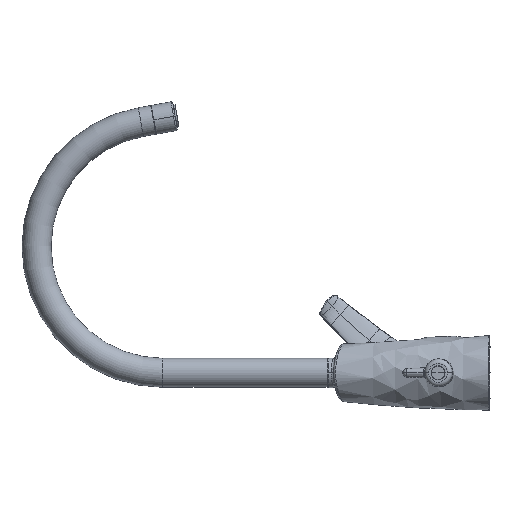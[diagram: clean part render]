
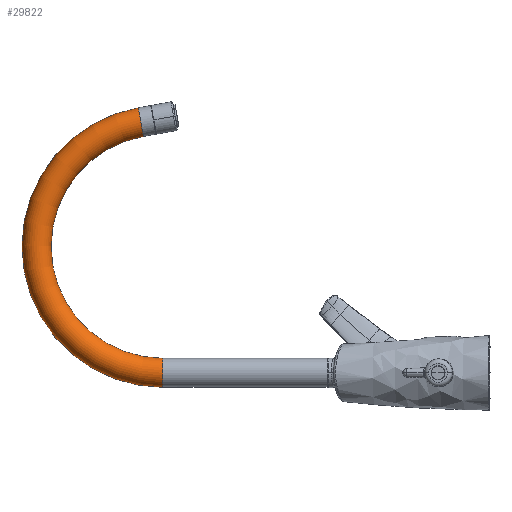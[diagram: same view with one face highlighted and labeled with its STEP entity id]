
A CAD part, left-side view. The second image highlights one B-rep face of the part: STEP entity #29822.
In plain terms, the highlighted toroidal (fillet/blend) face has major radius 100 mm and minor radius 11.5 mm.
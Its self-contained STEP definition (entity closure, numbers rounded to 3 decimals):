
#29699=CARTESIAN_POINT('',(0.,258.45,0.));
#29700=DIRECTION('',(0.,1.,0.));
#29701=DIRECTION('',(0.,0.,-1.));
#29702=AXIS2_PLACEMENT_3D('',#29699,#29700,#29701);
#29704=CARTESIAN_POINT('',(0.,258.45,100.));
#29705=DIRECTION('',(1.,0.,0.));
#29706=DIRECTION('',(0.,0.,-1.));
#29707=AXIS2_PLACEMENT_3D('',#29704,#29705,#29706);
#29714=CARTESIAN_POINT('',(0.,258.45,100.));
#29715=DIRECTION('',(1.,0.,0.));
#29716=DIRECTION('',(0.,0.,-1.));
#29717=AXIS2_PLACEMENT_3D('',#29714,#29715,#29716);
#29728=CARTESIAN_POINT('',(0.,275.815,
198.481));
#29729=DIRECTION('',(0.,-0.985,0.174));
#29730=DIRECTION('',(0.,0.174,0.985));
#29731=AXIS2_PLACEMENT_3D('',#29728,#29729,#29730);
#29751=CARTESIAN_POINT('',(0.,258.45,11.5));
#29752=CARTESIAN_POINT('',(0.,258.45,-11.5));
#29753=VERTEX_POINT('',#29751);
#29754=VERTEX_POINT('',#29752);
#29755=CARTESIAN_POINT('',(0.,273.818,
187.155));
#29756=CARTESIAN_POINT('',(0.,277.812,
209.806));
#29757=VERTEX_POINT('',#29755);
#29758=VERTEX_POINT('',#29756);
#29808=CARTESIAN_POINT('',(0.,258.45,100.));
#29809=DIRECTION('',(1.,0.,0.));
#29810=DIRECTION('',(0.,0.,1.));
#29811=AXIS2_PLACEMENT_3D('',#29808,#29809,#29810);
#29812=TOROIDAL_SURFACE('',#29811,100.,11.5);
#29813=ORIENTED_EDGE('',*,*,#29797,.F.);
#29815=ORIENTED_EDGE('',*,*,#29814,.T.);
#29817=ORIENTED_EDGE('',*,*,#29816,.T.);
#29819=ORIENTED_EDGE('',*,*,#29818,.F.);
#29820=EDGE_LOOP('',(#29813,#29815,#29817,#29819));
#29821=FACE_OUTER_BOUND('',#29820,.F.);
#29822=ADVANCED_FACE('',(#29821),#29812,.T.);
#29703=CIRCLE('',#29702,11.5);
#29708=CIRCLE('',#29707,111.5);
#29718=CIRCLE('',#29717,88.5);
#29732=CIRCLE('',#29731,11.5);
#29797=EDGE_CURVE('',#29754,#29753,#29703,.T.);
#29814=EDGE_CURVE('',#29754,#29758,#29708,.T.);
#29816=EDGE_CURVE('',#29758,#29757,#29732,.T.);
#29818=EDGE_CURVE('',#29753,#29757,#29718,.T.);
